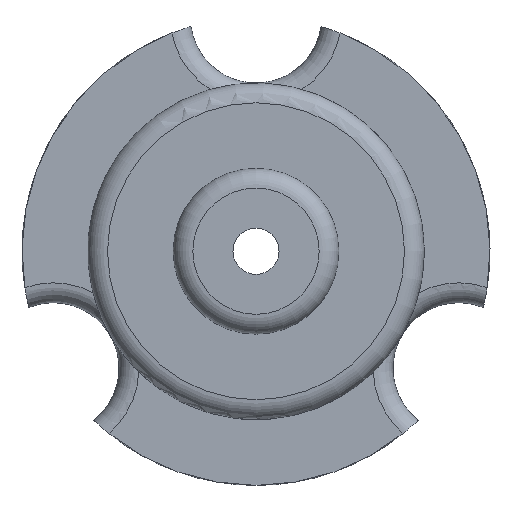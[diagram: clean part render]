
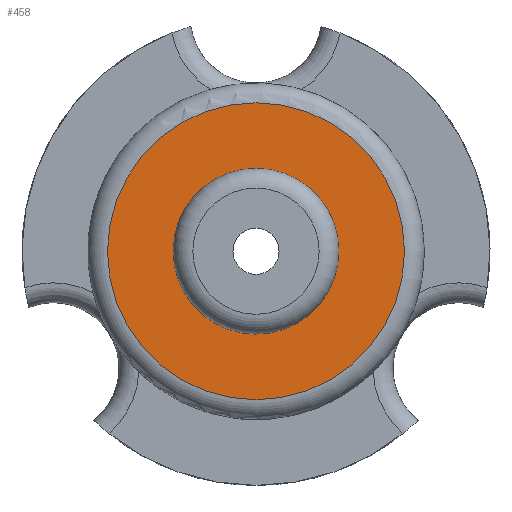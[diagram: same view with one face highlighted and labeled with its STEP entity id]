
A CAD part, top view. The second image highlights one B-rep face of the part: STEP entity #458.
In plain terms, the highlighted planar face has unit normal (0, 0, 1).
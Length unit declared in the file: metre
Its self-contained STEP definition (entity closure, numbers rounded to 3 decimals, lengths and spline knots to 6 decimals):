
#89=ORIENTED_EDGE('',*,*,#223,.T.);
#90=ORIENTED_EDGE('',*,*,#224,.F.);
#223=EDGE_CURVE('',#290,#290,#336,.T.);
#224=EDGE_CURVE('',#291,#291,#337,.T.);
#290=VERTEX_POINT('',#713);
#291=VERTEX_POINT('',#715);
#336=CIRCLE('',#502,0.022525);
#337=CIRCLE('',#503,0.012575);
#367=EDGE_LOOP('',(#89));
#368=EDGE_LOOP('',(#90));
#406=FACE_BOUND('',#367,.T.);
#407=FACE_BOUND('',#368,.T.);
#445=PLANE('',#501);
#458=ADVANCED_FACE('',(#406,#407),#445,.T.);
#501=AXIS2_PLACEMENT_3D('',#711,#564,#565);
#502=AXIS2_PLACEMENT_3D('',#712,#566,#567);
#503=AXIS2_PLACEMENT_3D('',#714,#568,#569);
#564=DIRECTION('',(0.,0.,1.));
#565=DIRECTION('',(1.,0.,0.));
#566=DIRECTION('',(0.,0.,1.));
#567=DIRECTION('',(1.,0.,0.));
#568=DIRECTION('',(0.,0.,1.));
#569=DIRECTION('',(1.,0.,0.));
#711=CARTESIAN_POINT('',(0.,0.,0.012));
#712=CARTESIAN_POINT('',(0.,0.,0.012));
#713=CARTESIAN_POINT('',(0.022525,0.,0.012));
#714=CARTESIAN_POINT('',(0.,0.,0.012));
#715=CARTESIAN_POINT('',(0.012575,0.,0.012));
